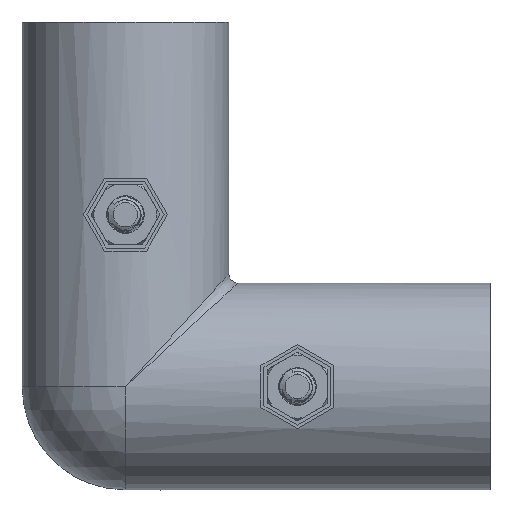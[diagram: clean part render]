
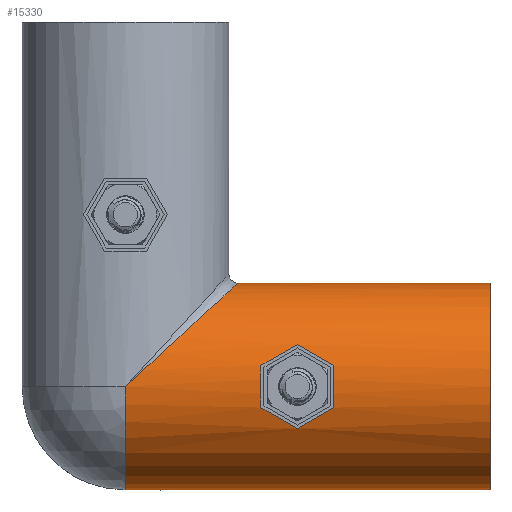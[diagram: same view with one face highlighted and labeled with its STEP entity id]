
A CAD part, front view. The second image highlights one B-rep face of the part: STEP entity #15330.
In plain terms, the highlighted cylindrical face has radius 17 mm (diameter 34 mm), a partial arc.
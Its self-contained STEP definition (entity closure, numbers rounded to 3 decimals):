
#93 = CARTESIAN_POINT ( 'NONE',  ( 26.373, -16.021, -5.816 ) ) ;
#1740 = ORIENTED_EDGE ( 'NONE', *, *, #15916, .F. ) ;
#1823 = EDGE_CURVE ( 'NONE', #24141, #3985, #5275, .T. ) ;
#1971 = CARTESIAN_POINT ( 'NONE',  ( 34.3, 0., 0. ) ) ;
#2046 = AXIS2_PLACEMENT_3D ( 'NONE', #4177, #14115, #24087 ) ;
#2484 = CARTESIAN_POINT ( 'NONE',  ( 10.837, -17., 9.958 ) ) ;
#2521 = LINE ( 'NONE', #12470, #25216 ) ;
#2660 = VERTEX_POINT ( 'NONE', #3224 ) ;
#3224 = CARTESIAN_POINT ( 'NONE',  ( 22.3, -16.643, -3.464 ) ) ;
#3632 = ORIENTED_EDGE ( 'NONE', *, *, #21946, .T. ) ;
#3877 = CARTESIAN_POINT ( 'NONE',  ( 60., 0., -17. ) ) ;
#3985 = VERTEX_POINT ( 'NONE', #27627 ) ;
#4177 = CARTESIAN_POINT ( 'NONE',  ( 22.3, 0., 0. ) ) ;
#4197 = VERTEX_POINT ( 'NONE', #16628 ) ;
#4214 = DIRECTION ( 'NONE',  ( 0., 0., 1. ) ) ;
#4955 = VERTEX_POINT ( 'NONE', #14567 ) ;
#5275 =( BOUNDED_CURVE ( )  B_SPLINE_CURVE ( 3, ( #21170, #31137, #8758, #18696 ),
 .UNSPECIFIED., .F., .F. ) 
 B_SPLINE_CURVE_WITH_KNOTS ( ( 4, 4 ),
 ( 4.293, 4.507 ),
 .UNSPECIFIED. ) 
 CURVE ( )  GEOMETRIC_REPRESENTATION_ITEM ( )  RATIONAL_B_SPLINE_CURVE ( ( 1., 0.996, 0.996, 1. ) ) 
 REPRESENTATION_ITEM ( '' )  );
#5578 = CARTESIAN_POINT ( 'NONE',  ( 32.234, -16.395, -4.657 ) ) ;
#5923 =( BOUNDED_CURVE ( )  B_SPLINE_CURVE ( 3, ( #29672, #7291, #17223, #27221 ),
 .UNSPECIFIED., .F., .F. ) 
 B_SPLINE_CURVE_WITH_KNOTS ( ( 4, 4 ),
 ( 4.918, 5.132 ),
 .UNSPECIFIED. ) 
 CURVE ( )  GEOMETRIC_REPRESENTATION_ITEM ( )  RATIONAL_B_SPLINE_CURVE ( ( 1., 0.996, 0.996, 1. ) ) 
 REPRESENTATION_ITEM ( '' )  );
#6658 = CYLINDRICAL_SURFACE ( 'NONE', #19793, 17. ) ;
#7291 = CARTESIAN_POINT ( 'NONE',  ( 32.234, -16.395, 4.657 ) ) ;
#7334 = ORIENTED_EDGE ( 'NONE', *, *, #19904, .F. ) ;
#7530 = VECTOR ( 'NONE', #28809, 1000. ) ;
#7923 = EDGE_CURVE ( 'NONE', #19066, #4955, #2521, .T. ) ;
#8758 = CARTESIAN_POINT ( 'NONE',  ( 24.366, -16.395, 4.657 ) ) ;
#8884 = LINE ( 'NONE', #18821, #7530 ) ;
#9224 = DIRECTION ( 'NONE',  ( 0., 0., -1. ) ) ;
#9788 = DIRECTION ( 'NONE',  ( 1., 0., 0. ) ) ;
#10058 = CARTESIAN_POINT ( 'NONE',  ( 28.3, -15.524, -6.928 ) ) ;
#10117 = CIRCLE ( 'NONE', #28372, 17. ) ;
#10170 = ORIENTED_EDGE ( 'NONE', *, *, #23058, .F. ) ;
#10740 = CARTESIAN_POINT ( 'NONE',  ( 0., -17., 0. ) ) ;
#11480 = ORIENTED_EDGE ( 'NONE', *, *, #14052, .F. ) ;
#11923 = DIRECTION ( 'NONE',  ( -1., 0., 0. ) ) ;
#12430 = CARTESIAN_POINT ( 'NONE',  ( 0., -17., 0. ) ) ;
#12470 = CARTESIAN_POINT ( 'NONE',  ( 5.442, 0., -17. ) ) ;
#12508 = CARTESIAN_POINT ( 'NONE',  ( 22.3, -16.643, -3.464 ) ) ;
#13251 = ORIENTED_EDGE ( 'NONE', *, *, #20704, .T. ) ;
#13461 = VERTEX_POINT ( 'NONE', #27094 ) ;
#13825 = DIRECTION ( 'NONE',  ( -1., 0., 0. ) ) ;
#13899 = EDGE_CURVE ( 'NONE', #4197, #28681, #10117, .T. ) ;
#14052 = EDGE_CURVE ( 'NONE', #13461, #24141, #5923, .T. ) ;
#14115 = DIRECTION ( 'NONE',  ( 1., 0., 0. ) ) ;
#14499 = EDGE_CURVE ( 'NONE', #4197, #28133, #8884, .T. ) ;
#14567 = CARTESIAN_POINT ( 'NONE',  ( 0., 0., -17. ) ) ;
#14578 = CARTESIAN_POINT ( 'NONE',  ( 60., 0., -17. ) ) ;
#14590 = VECTOR ( 'NONE', #13825, 1000. ) ;
#14870 = CARTESIAN_POINT ( 'NONE',  ( 18.5, 0., 17. ) ) ;
#14911 = ORIENTED_EDGE ( 'NONE', *, *, #24954, .F. ) ;
#15330 = ADVANCED_FACE ( 'NONE', ( #19044, #29032 ), #6658, .T. ) ;
#15512 = CARTESIAN_POINT ( 'NONE',  ( 34.3, -16.643, -3.464 ) ) ;
#15775 = VERTEX_POINT ( 'NONE', #16234 ) ;
#15916 = EDGE_CURVE ( 'NONE', #3985, #2660, #16100, .T. ) ;
#16100 = CIRCLE ( 'NONE', #2046, 17. ) ;
#16234 = CARTESIAN_POINT ( 'NONE',  ( 34.3, -16.643, -3.464 ) ) ;
#16590 = CARTESIAN_POINT ( 'NONE',  ( 60., 0., 0. ) ) ;
#16628 = CARTESIAN_POINT ( 'NONE',  ( 60., 0., 17. ) ) ;
#16761 = AXIS2_PLACEMENT_3D ( 'NONE', #21625, #31588, #9224 ) ;
#17223 = CARTESIAN_POINT ( 'NONE',  ( 30.227, -16.021, 5.816 ) ) ;
#17261 = ORIENTED_EDGE ( 'NONE', *, *, #1823, .F. ) ;
#17740 = ORIENTED_EDGE ( 'NONE', *, *, #7923, .F. ) ;
#17961 = CARTESIAN_POINT ( 'NONE',  ( 28.3, -15.524, -6.928 ) ) ;
#18072 =( BOUNDED_CURVE ( )  B_SPLINE_CURVE ( 3, ( #17961, #27948, #5578, #15512 ),
 .UNSPECIFIED., .F., .F. ) 
 B_SPLINE_CURVE_WITH_KNOTS ( ( 4, 4 ),
 ( 1.151, 1.366 ),
 .UNSPECIFIED. ) 
 CURVE ( )  GEOMETRIC_REPRESENTATION_ITEM ( )  RATIONAL_B_SPLINE_CURVE ( ( 1., 0.996, 0.996, 1. ) ) 
 REPRESENTATION_ITEM ( '' )  );
#18696 = CARTESIAN_POINT ( 'NONE',  ( 22.3, -16.643, 3.464 ) ) ;
#18821 = CARTESIAN_POINT ( 'NONE',  ( 60., 0., 17. ) ) ;
#19044 = FACE_OUTER_BOUND ( 'NONE', #24413, .T. ) ;
#19066 = VERTEX_POINT ( 'NONE', #25778 ) ;
#19731 = DIRECTION ( 'NONE',  ( 0., 0., -1. ) ) ;
#19758 = CARTESIAN_POINT ( 'NONE',  ( 28.3, -15.524, 6.928 ) ) ;
#19793 = AXIS2_PLACEMENT_3D ( 'NONE', #16590, #26583, #4214 ) ;
#19904 = EDGE_CURVE ( 'NONE', #28681, #19066, #26248, .T. ) ;
#20523 = EDGE_LOOP ( 'NONE', ( #11480, #10170, #25922, #14911, #1740, #17261 ) ) ;
#20704 = EDGE_CURVE ( 'NONE', #26910, #4955, #30856, .T. ) ;
#20924 = AXIS2_PLACEMENT_3D ( 'NONE', #1971, #11923, #21882 ) ;
#21170 = CARTESIAN_POINT ( 'NONE',  ( 28.3, -15.524, 6.928 ) ) ;
#21625 = CARTESIAN_POINT ( 'NONE',  ( 0., 0., 0. ) ) ;
#21882 = DIRECTION ( 'NONE',  ( 0., 0., 1. ) ) ;
#21946 = EDGE_CURVE ( 'NONE', #28133, #26910, #23911, .T. ) ;
#22049 = VERTEX_POINT ( 'NONE', #25650 ) ;
#22431 = DIRECTION ( 'NONE',  ( -1., 0., 0. ) ) ;
#22464 = CARTESIAN_POINT ( 'NONE',  ( 24.366, -16.395, -4.657 ) ) ;
#23058 = EDGE_CURVE ( 'NONE', #15775, #13461, #29476, .T. ) ;
#23911 =( BOUNDED_CURVE ( )  B_SPLINE_CURVE ( 3, ( #14870, #24851, #2484, #12430 ),
 .UNSPECIFIED., .F., .F. ) 
 B_SPLINE_CURVE_WITH_KNOTS ( ( 4, 4 ),
 ( 3.142, 4.712 ),
 .UNSPECIFIED. ) 
 CURVE ( )  GEOMETRIC_REPRESENTATION_ITEM ( )  RATIONAL_B_SPLINE_CURVE ( ( 1., 0.805, 0.805, 1. ) ) 
 REPRESENTATION_ITEM ( '' )  );
#24087 = DIRECTION ( 'NONE',  ( 0., 0., -1. ) ) ;
#24141 = VERTEX_POINT ( 'NONE', #19758 ) ;
#24413 = EDGE_LOOP ( 'NONE', ( #32032, #3632, #13251, #17740, #7334, #27020 ) ) ;
#24851 = CARTESIAN_POINT ( 'NONE',  ( 18.5, -9.958, 17. ) ) ;
#24954 = EDGE_CURVE ( 'NONE', #2660, #22049, #29368, .T. ) ;
#25216 = VECTOR ( 'NONE', #22431, 1000. ) ;
#25650 = CARTESIAN_POINT ( 'NONE',  ( 28.3, -15.524, -6.928 ) ) ;
#25778 = CARTESIAN_POINT ( 'NONE',  ( 5.442, 0., -17. ) ) ;
#25922 = ORIENTED_EDGE ( 'NONE', *, *, #27651, .F. ) ;
#26248 = LINE ( 'NONE', #3877, #14590 ) ;
#26583 = DIRECTION ( 'NONE',  ( -1., 0., 0. ) ) ;
#26910 = VERTEX_POINT ( 'NONE', #10740 ) ;
#27020 = ORIENTED_EDGE ( 'NONE', *, *, #13899, .F. ) ;
#27094 = CARTESIAN_POINT ( 'NONE',  ( 34.3, -16.643, 3.464 ) ) ;
#27221 = CARTESIAN_POINT ( 'NONE',  ( 28.3, -15.524, 6.928 ) ) ;
#27627 = CARTESIAN_POINT ( 'NONE',  ( 22.3, -16.643, 3.464 ) ) ;
#27651 = EDGE_CURVE ( 'NONE', #22049, #15775, #18072, .T. ) ;
#27948 = CARTESIAN_POINT ( 'NONE',  ( 30.227, -16.021, -5.816 ) ) ;
#28133 = VERTEX_POINT ( 'NONE', #29883 ) ;
#28372 = AXIS2_PLACEMENT_3D ( 'NONE', #32155, #9788, #19731 ) ;
#28681 = VERTEX_POINT ( 'NONE', #14578 ) ;
#28809 = DIRECTION ( 'NONE',  ( -1., 0., 0. ) ) ;
#29032 = FACE_BOUND ( 'NONE', #20523, .T. ) ;
#29368 =( BOUNDED_CURVE ( )  B_SPLINE_CURVE ( 3, ( #12508, #22464, #93, #10058 ),
 .UNSPECIFIED., .F., .F. ) 
 B_SPLINE_CURVE_WITH_KNOTS ( ( 4, 4 ),
 ( 1.776, 1.991 ),
 .UNSPECIFIED. ) 
 CURVE ( )  GEOMETRIC_REPRESENTATION_ITEM ( )  RATIONAL_B_SPLINE_CURVE ( ( 1., 0.996, 0.996, 1. ) ) 
 REPRESENTATION_ITEM ( '' )  );
#29476 = CIRCLE ( 'NONE', #20924, 17. ) ;
#29672 = CARTESIAN_POINT ( 'NONE',  ( 34.3, -16.643, 3.464 ) ) ;
#29883 = CARTESIAN_POINT ( 'NONE',  ( 18.5, 0., 17. ) ) ;
#30856 = CIRCLE ( 'NONE', #16761, 17. ) ;
#31137 = CARTESIAN_POINT ( 'NONE',  ( 26.373, -16.021, 5.816 ) ) ;
#31588 = DIRECTION ( 'NONE',  ( 1., 0., 0. ) ) ;
#32032 = ORIENTED_EDGE ( 'NONE', *, *, #14499, .T. ) ;
#32155 = CARTESIAN_POINT ( 'NONE',  ( 60., 0., 0. ) ) ;
